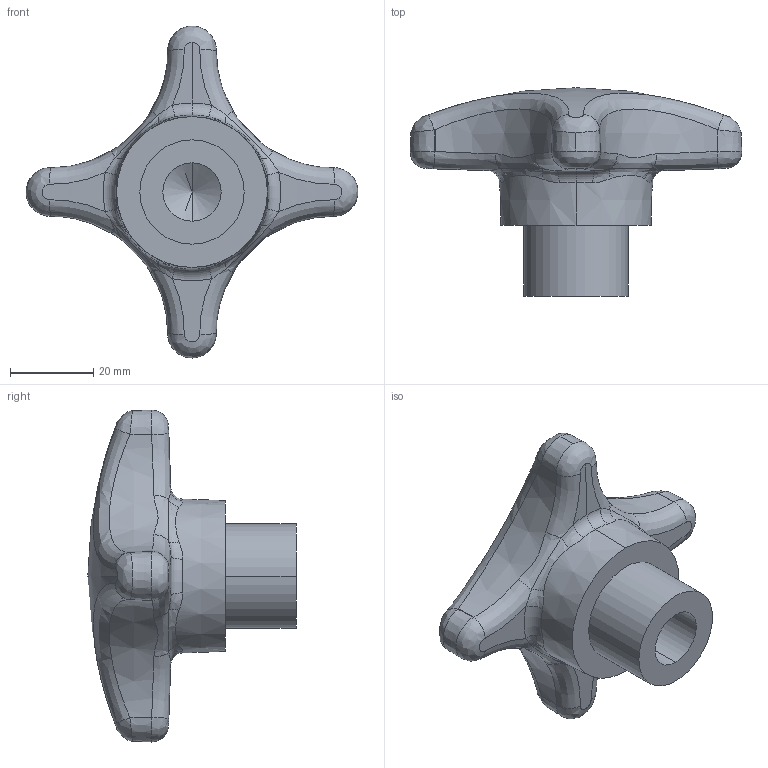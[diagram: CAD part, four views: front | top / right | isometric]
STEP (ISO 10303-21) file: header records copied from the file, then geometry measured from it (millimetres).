
FILE_DESCRIPTION (( 'STEP AP214' ), '1' );
FILE_NAME ('6335.2-80-M16-E-NI.step', '2022-11-14T08:41:39', ( '' ), ( '' ), 'SwSTEP 2.0', 'SolidWorks 2022', '' );
FILE_SCHEMA (( 'AUTOMOTIVE_DESIGN' ));
Length unit declared in the file: millimetre
Products named in the file (1): 6335.2-80-M16-E-NI
Bounding box: 79.67 x 50 x 79.67 mm (x, y, z)
Volume: 55248.9 mm3; surface area: 12028.7 mm2
Topology: 1 solids, 1 shells, 74 faces, 178 edges, 106 vertices
Faces by surface type: bspline 36, cone 25, torus 5, cylinder 4, sphere 2, plane 2
Entity records: 5573 total; most frequent: CARTESIAN_POINT 4014, ORIENTED_EDGE 352, DIRECTION 231, EDGE_CURVE 176, VERTEX_POINT 106, AXIS2_PLACEMENT_3D 103, B_SPLINE_CURVE_WITH_KNOTS 87, EDGE_LOOP 76
